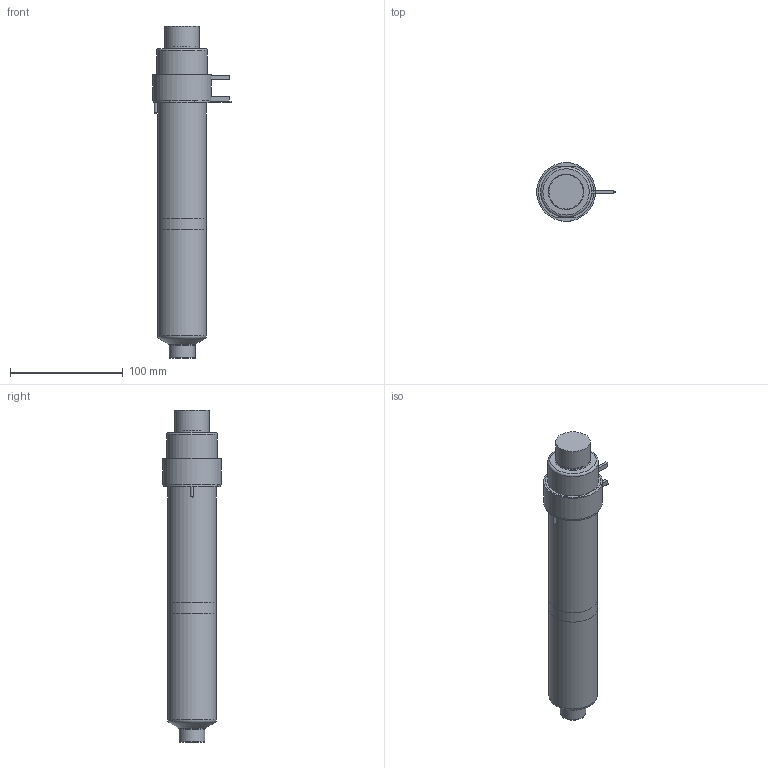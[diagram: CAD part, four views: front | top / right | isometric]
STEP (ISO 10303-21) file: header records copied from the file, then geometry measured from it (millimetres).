
FILE_DESCRIPTION(/* description */ (''),/* implementation_level */ '2;1');
FILE_NAME(/* name */ 'SXTBE-SXIBE-SXOBE27225_250C_a',/* time_stamp */ '2016-03-03T10:31:16+13:00',/* author */ (''),/* organization */ (''),/* preprocessor_version */ 'ST-DEVELOPER v9',/* originating_system */ 'UGS - NX 4.0',/* authorisation */ '');
FILE_SCHEMA (('CONFIG_CONTROL_DESIGN'));
Length unit declared in the file: millimetre
Products named in the file (1): matt0BBCfh6w
Bounding box: 69.6 x 52 x 293.94 mm (x, y, z)
Volume: 745192.1 mm3; surface area: 85458.4 mm2
Topology: 7 solids, 7 shells, 92 faces, 181 edges, 117 vertices
Faces by surface type: plane 43, cylinder 28, torus 10, cone 10, bspline 1
Full cylindrical faces by diameter (mm): 1 x3, 2 x1, 2.5 x2, 12 x1, 22.61 x1, 23.01 x2, 27.5 x1, 30 x1, 30.4 x1, 38.1 x2, 43 x2, 45 x1, 50 x1, 52 x1
Entity records: 2377 total; most frequent: CARTESIAN_POINT 543, DIRECTION 384, ORIENTED_EDGE 278, AXIS2_PLACEMENT_3D 167, EDGE_LOOP 140, EDGE_CURVE 139, VERTEX_POINT 110, ADVANCED_FACE 92
